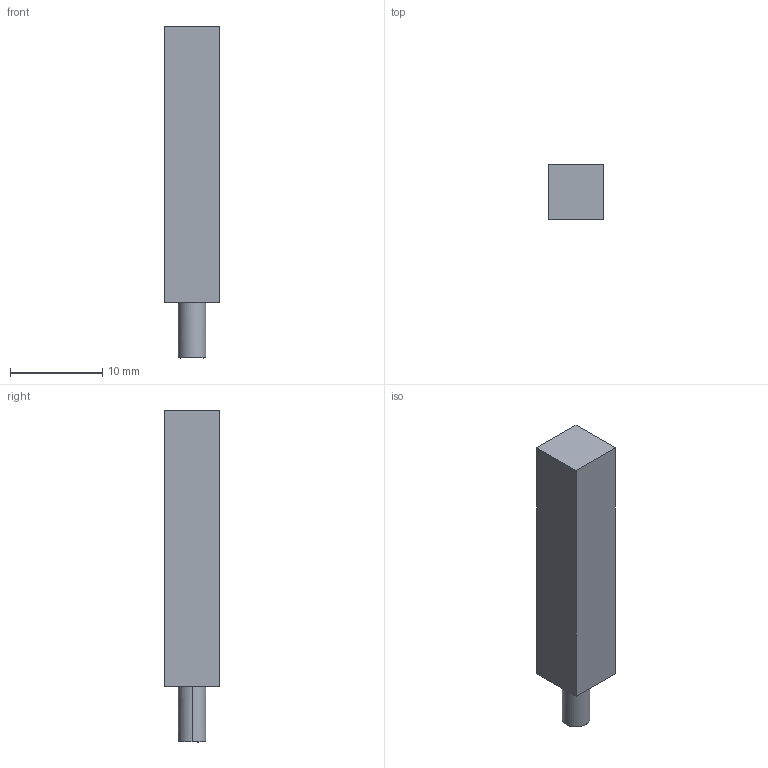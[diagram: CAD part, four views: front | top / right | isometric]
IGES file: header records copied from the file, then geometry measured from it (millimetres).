
Start section: Comment
Global section: file name: IFFM 06xxxA1_O1L.igs; native system:  By Spatial Corp.; preprocessor: XPlus GENERIC/IGES 3.0; author: Author; organization: Title; date: 20060328.134110; units: inch
Bounding box: 6 x 6 x 36 mm (x, y, z)
Surface area: 855.8 mm2 (no closed solid volume)
Topology: 0 solids, 0 shells, 20 faces, 80 edges, 80 vertices
Faces by surface type: bspline 20
